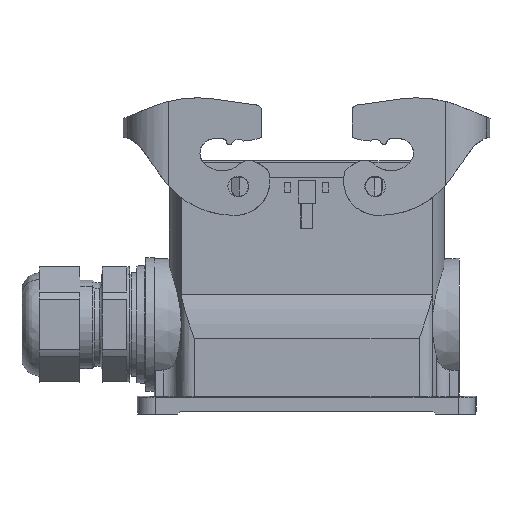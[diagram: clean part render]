
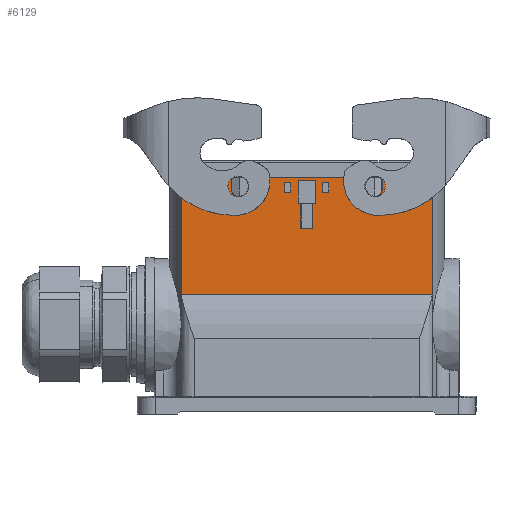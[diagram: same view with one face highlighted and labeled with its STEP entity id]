
A CAD part, front view. The second image highlights one B-rep face of the part: STEP entity #6129.
In plain terms, the highlighted planar face has unit normal (0, -1, 0).
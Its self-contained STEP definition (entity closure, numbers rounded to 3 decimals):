
#5215=FACE_BOUND('',#7944,.T.);
#5216=FACE_BOUND('',#7945,.T.);
#5217=FACE_BOUND('',#7946,.T.);
#5218=FACE_BOUND('',#7947,.T.);
#5512=PLANE('',#23033);
#6129=ADVANCED_FACE('',(#5215,#5216,#5217,#5218),#5512,.T.);
#7944=EDGE_LOOP('',(#10513,#10514,#10515,#10516,#10517,#10518,#10519,#10520,
#10521,#10522,#10523,#10524,#10525,#10526));
#7945=EDGE_LOOP('',(#10527,#10528,#10529,#10530));
#7946=EDGE_LOOP('',(#10531,#10532,#10533,#10534,#10535,#10536,#10537,#10538));
#7947=EDGE_LOOP('',(#10539,#10540,#10541,#10542));
#10513=ORIENTED_EDGE('',*,*,#15801,.F.);
#10514=ORIENTED_EDGE('',*,*,#15768,.F.);
#10515=ORIENTED_EDGE('',*,*,#15802,.T.);
#10516=ORIENTED_EDGE('',*,*,#15803,.T.);
#10517=ORIENTED_EDGE('',*,*,#15804,.F.);
#10518=ORIENTED_EDGE('',*,*,#15805,.T.);
#10519=ORIENTED_EDGE('',*,*,#15806,.T.);
#10520=ORIENTED_EDGE('',*,*,#15758,.F.);
#10521=ORIENTED_EDGE('',*,*,#15807,.F.);
#10522=ORIENTED_EDGE('',*,*,#15808,.F.);
#10523=ORIENTED_EDGE('',*,*,#15757,.F.);
#10524=ORIENTED_EDGE('',*,*,#15809,.T.);
#10525=ORIENTED_EDGE('',*,*,#15770,.F.);
#10526=ORIENTED_EDGE('',*,*,#15810,.F.);
#10527=ORIENTED_EDGE('',*,*,#15811,.F.);
#10528=ORIENTED_EDGE('',*,*,#15812,.F.);
#10529=ORIENTED_EDGE('',*,*,#15813,.F.);
#10530=ORIENTED_EDGE('',*,*,#15814,.F.);
#10531=ORIENTED_EDGE('',*,*,#15815,.T.);
#10532=ORIENTED_EDGE('',*,*,#15816,.T.);
#10533=ORIENTED_EDGE('',*,*,#15817,.T.);
#10534=ORIENTED_EDGE('',*,*,#15818,.T.);
#10535=ORIENTED_EDGE('',*,*,#15819,.T.);
#10536=ORIENTED_EDGE('',*,*,#15820,.T.);
#10537=ORIENTED_EDGE('',*,*,#15821,.T.);
#10538=ORIENTED_EDGE('',*,*,#15822,.T.);
#10539=ORIENTED_EDGE('',*,*,#15823,.F.);
#10540=ORIENTED_EDGE('',*,*,#15824,.F.);
#10541=ORIENTED_EDGE('',*,*,#15825,.F.);
#10542=ORIENTED_EDGE('',*,*,#15826,.F.);
#14008=VERTEX_POINT('',#30774);
#14011=VERTEX_POINT('',#30786);
#14012=VERTEX_POINT('',#30790);
#14013=VERTEX_POINT('',#30791);
#14020=VERTEX_POINT('',#30824);
#14021=VERTEX_POINT('',#30826);
#14022=VERTEX_POINT('',#30833);
#14023=VERTEX_POINT('',#30834);
#14043=VERTEX_POINT('',#30929);
#14044=VERTEX_POINT('',#30931);
#14045=VERTEX_POINT('',#30933);
#14046=VERTEX_POINT('',#30935);
#14047=VERTEX_POINT('',#30937);
#14048=VERTEX_POINT('',#30940);
#14049=VERTEX_POINT('',#30945);
#14050=VERTEX_POINT('',#30946);
#14051=VERTEX_POINT('',#30948);
#14052=VERTEX_POINT('',#30950);
#14053=VERTEX_POINT('',#30953);
#14054=VERTEX_POINT('',#30954);
#14055=VERTEX_POINT('',#30956);
#14056=VERTEX_POINT('',#30958);
#14057=VERTEX_POINT('',#30960);
#14058=VERTEX_POINT('',#30962);
#14059=VERTEX_POINT('',#30964);
#14060=VERTEX_POINT('',#30966);
#14061=VERTEX_POINT('',#30969);
#14062=VERTEX_POINT('',#30970);
#14063=VERTEX_POINT('',#30972);
#14064=VERTEX_POINT('',#30974);
#15757=EDGE_CURVE('',#14011,#14008,#17464,.T.);
#15758=EDGE_CURVE('',#14012,#14013,#17465,.T.);
#15768=EDGE_CURVE('',#14020,#14021,#17466,.T.);
#15770=EDGE_CURVE('',#14022,#14023,#17467,.T.);
#15801=EDGE_CURVE('',#14021,#14043,#18961,.T.);
#15802=EDGE_CURVE('',#14020,#14044,#18962,.T.);
#15803=EDGE_CURVE('',#14044,#14045,#18963,.T.);
#15804=EDGE_CURVE('',#14046,#14045,#18964,.T.);
#15805=EDGE_CURVE('',#14046,#14047,#18965,.T.);
#15806=EDGE_CURVE('',#14047,#14013,#18966,.T.);
#15807=EDGE_CURVE('',#14048,#14012,#18967,.T.);
#15808=EDGE_CURVE('',#14008,#14048,#17471,.T.);
#15809=EDGE_CURVE('',#14011,#14023,#18968,.T.);
#15810=EDGE_CURVE('',#14043,#14022,#17472,.T.);
#15811=EDGE_CURVE('',#14049,#14050,#18969,.T.);
#15812=EDGE_CURVE('',#14051,#14049,#18970,.T.);
#15813=EDGE_CURVE('',#14052,#14051,#18971,.T.);
#15814=EDGE_CURVE('',#14050,#14052,#18972,.T.);
#15815=EDGE_CURVE('',#14053,#14054,#18973,.T.);
#15816=EDGE_CURVE('',#14054,#14055,#18974,.T.);
#15817=EDGE_CURVE('',#14055,#14056,#18975,.T.);
#15818=EDGE_CURVE('',#14056,#14057,#18976,.T.);
#15819=EDGE_CURVE('',#14057,#14058,#18977,.T.);
#15820=EDGE_CURVE('',#14058,#14059,#18978,.T.);
#15821=EDGE_CURVE('',#14059,#14060,#18979,.T.);
#15822=EDGE_CURVE('',#14060,#14053,#18980,.T.);
#15823=EDGE_CURVE('',#14061,#14062,#18981,.T.);
#15824=EDGE_CURVE('',#14063,#14061,#18982,.T.);
#15825=EDGE_CURVE('',#14064,#14063,#18983,.T.);
#15826=EDGE_CURVE('',#14062,#14064,#18984,.T.);
#17464=CIRCLE('',#23001,3.5);
#17465=CIRCLE('',#23003,3.5);
#17466=CIRCLE('',#23009,3.5);
#17467=CIRCLE('',#23011,3.5);
#17471=CIRCLE('',#23031,2.4);
#17472=CIRCLE('',#23032,2.4);
#18961=LINE('',#30928,#20457);
#18962=LINE('',#30930,#20458);
#18963=LINE('',#30932,#20459);
#18964=LINE('',#30934,#20460);
#18965=LINE('',#30936,#20461);
#18966=LINE('',#30938,#20462);
#18967=LINE('',#30939,#20463);
#18968=LINE('',#30942,#20464);
#18969=LINE('',#30944,#20465);
#18970=LINE('',#30947,#20466);
#18971=LINE('',#30949,#20467);
#18972=LINE('',#30951,#20468);
#18973=LINE('',#30952,#20469);
#18974=LINE('',#30955,#20470);
#18975=LINE('',#30957,#20471);
#18976=LINE('',#30959,#20472);
#18977=LINE('',#30961,#20473);
#18978=LINE('',#30963,#20474);
#18979=LINE('',#30965,#20475);
#18980=LINE('',#30967,#20476);
#18981=LINE('',#30968,#20477);
#18982=LINE('',#30971,#20478);
#18983=LINE('',#30973,#20479);
#18984=LINE('',#30975,#20480);
#20457=VECTOR('',#25797,1.);
#20458=VECTOR('',#25798,1.);
#20459=VECTOR('',#25799,1.);
#20460=VECTOR('',#25800,1.);
#20461=VECTOR('',#25801,1.);
#20462=VECTOR('',#25802,1.);
#20463=VECTOR('',#25803,1.);
#20464=VECTOR('',#25806,1.);
#20465=VECTOR('',#25809,1.);
#20466=VECTOR('',#25810,1.);
#20467=VECTOR('',#25811,1.);
#20468=VECTOR('',#25812,1.);
#20469=VECTOR('',#25813,1.);
#20470=VECTOR('',#25814,1.);
#20471=VECTOR('',#25815,1.);
#20472=VECTOR('',#25816,1.);
#20473=VECTOR('',#25817,1.);
#20474=VECTOR('',#25818,1.);
#20475=VECTOR('',#25819,1.);
#20476=VECTOR('',#25820,1.);
#20477=VECTOR('',#25821,1.);
#20478=VECTOR('',#25822,1.);
#20479=VECTOR('',#25823,1.);
#20480=VECTOR('',#25824,1.);
#23001=AXIS2_PLACEMENT_3D('',#30787,#25722,#25723);
#23003=AXIS2_PLACEMENT_3D('',#30789,#25726,#25727);
#23009=AXIS2_PLACEMENT_3D('',#30825,#25741,#25742);
#23011=AXIS2_PLACEMENT_3D('',#30832,#25745,#25746);
#23031=AXIS2_PLACEMENT_3D('',#30941,#25804,#25805);
#23032=AXIS2_PLACEMENT_3D('',#30943,#25807,#25808);
#23033=AXIS2_PLACEMENT_3D('',#30976,#25825,#25826);
#25722=DIRECTION('',(0.,-1.,0.));
#25723=DIRECTION('',(1.,0.,0.));
#25726=DIRECTION('',(0.,-1.,0.));
#25727=DIRECTION('',(1.,0.,0.));
#25741=DIRECTION('',(0.,-1.,0.));
#25742=DIRECTION('',(1.,0.,0.));
#25745=DIRECTION('',(0.,-1.,0.));
#25746=DIRECTION('',(1.,0.,0.));
#25797=DIRECTION('',(0.,0.,-1.));
#25798=DIRECTION('',(-1.,0.,0.));
#25799=DIRECTION('',(0.,0.,-1.));
#25800=DIRECTION('',(-1.,0.,0.));
#25801=DIRECTION('',(0.,0.,1.));
#25802=DIRECTION('',(-1.,0.,0.));
#25803=DIRECTION('',(0.,0.,1.));
#25804=DIRECTION('',(0.,-1.,0.));
#25805=DIRECTION('',(1.,0.,0.));
#25806=DIRECTION('',(-1.,0.,0.));
#25807=DIRECTION('',(0.,-1.,0.));
#25808=DIRECTION('',(1.,0.,0.));
#25809=DIRECTION('',(0.,0.,1.));
#25810=DIRECTION('',(1.,0.,0.));
#25811=DIRECTION('',(0.,0.,-1.));
#25812=DIRECTION('',(-1.,0.,0.));
#25813=DIRECTION('',(0.017,0.,-1.));
#25814=DIRECTION('',(-1.,0.,0.));
#25815=DIRECTION('',(0.,0.,-1.));
#25816=DIRECTION('',(-1.,0.,0.));
#25817=DIRECTION('',(0.,0.,1.));
#25818=DIRECTION('',(-1.,0.,0.));
#25819=DIRECTION('',(0.017,0.,1.));
#25820=DIRECTION('',(1.,0.,0.));
#25821=DIRECTION('',(1.,0.,0.));
#25822=DIRECTION('',(0.,0.,-1.));
#25823=DIRECTION('',(-1.,0.,0.));
#25824=DIRECTION('',(0.,0.,1.));
#25825=DIRECTION('',(0.,-1.,0.));
#25826=DIRECTION('',(-1.,0.,0.));
#30774=CARTESIAN_POINT('',(23.75,-22.5,-0.85));
#30786=CARTESIAN_POINT('',(22.033,-22.5,5.7));
#30787=CARTESIAN_POINT('',(23.75,-22.5,2.65));
#30789=CARTESIAN_POINT('',(23.75,-22.5,2.65));
#30790=CARTESIAN_POINT('',(26.15,-22.5,5.198));
#30791=CARTESIAN_POINT('',(25.467,-22.5,5.7));
#30824=CARTESIAN_POINT('',(-25.467,-22.5,5.7));
#30825=CARTESIAN_POINT('',(-23.75,-22.5,2.65));
#30826=CARTESIAN_POINT('',(-26.15,-22.5,5.198));
#30832=CARTESIAN_POINT('',(-23.75,-22.5,2.65));
#30833=CARTESIAN_POINT('',(-23.75,-22.5,-0.85));
#30834=CARTESIAN_POINT('',(-22.033,-22.5,5.7));
#30928=CARTESIAN_POINT('',(-26.15,-22.5,2.65));
#30929=CARTESIAN_POINT('',(-26.15,-22.5,1.55));
#30930=CARTESIAN_POINT('',(0.,-22.5,5.7));
#30931=CARTESIAN_POINT('',(-43.6,-22.5,5.7));
#30932=CARTESIAN_POINT('',(-43.6,-22.5,5.7));
#30933=CARTESIAN_POINT('',(-43.6,-22.5,-35.001));
#30934=CARTESIAN_POINT('',(43.6,-22.5,-35.001));
#30935=CARTESIAN_POINT('',(43.6,-22.5,-35.001));
#30936=CARTESIAN_POINT('',(43.6,-22.5,5.7));
#30937=CARTESIAN_POINT('',(43.6,-22.5,5.7));
#30938=CARTESIAN_POINT('',(0.,-22.5,5.7));
#30939=CARTESIAN_POINT('',(26.15,-22.5,5.7));
#30940=CARTESIAN_POINT('',(26.15,-22.5,1.55));
#30941=CARTESIAN_POINT('',(23.75,-22.5,1.55));
#30942=CARTESIAN_POINT('',(0.,-22.5,5.7));
#30943=CARTESIAN_POINT('',(-23.75,-22.5,1.55));
#30944=CARTESIAN_POINT('',(-5.5,-22.5,5.7));
#30945=CARTESIAN_POINT('',(-5.5,-22.5,0.6));
#30946=CARTESIAN_POINT('',(-5.5,-22.5,4.));
#30947=CARTESIAN_POINT('',(-7.7,-22.5,0.6));
#30948=CARTESIAN_POINT('',(-7.7,-22.5,0.6));
#30949=CARTESIAN_POINT('',(-7.7,-22.5,4.));
#30950=CARTESIAN_POINT('',(-7.7,-22.5,4.));
#30951=CARTESIAN_POINT('',(-5.5,-22.5,4.));
#30952=CARTESIAN_POINT('',(2.047,-22.5,-5.964));
#30953=CARTESIAN_POINT('',(1.86,-22.5,4.75));
#30954=CARTESIAN_POINT('',(2.001,-22.5,-3.285));
#30955=CARTESIAN_POINT('',(0.,-22.5,-3.285));
#30956=CARTESIAN_POINT('',(2.,-22.5,-3.285));
#30957=CARTESIAN_POINT('',(2.,-22.5,-6.));
#30958=CARTESIAN_POINT('',(2.,-22.5,-11.95));
#30959=CARTESIAN_POINT('',(0.,-22.5,-11.95));
#30960=CARTESIAN_POINT('',(-2.,-22.5,-11.95));
#30961=CARTESIAN_POINT('',(-2.,-22.5,-6.));
#30962=CARTESIAN_POINT('',(-2.,-22.5,-3.285));
#30963=CARTESIAN_POINT('',(0.,-22.5,-3.285));
#30964=CARTESIAN_POINT('',(-2.001,-22.5,-3.285));
#30965=CARTESIAN_POINT('',(-2.047,-22.5,-5.964));
#30966=CARTESIAN_POINT('',(-1.86,-22.5,4.75));
#30967=CARTESIAN_POINT('',(-2.,-22.5,4.75));
#30968=CARTESIAN_POINT('',(5.5,-22.5,0.6));
#30969=CARTESIAN_POINT('',(5.5,-22.5,0.6));
#30970=CARTESIAN_POINT('',(7.7,-22.5,0.6));
#30971=CARTESIAN_POINT('',(5.5,-22.5,4.));
#30972=CARTESIAN_POINT('',(5.5,-22.5,4.));
#30973=CARTESIAN_POINT('',(7.7,-22.5,4.));
#30974=CARTESIAN_POINT('',(7.7,-22.5,4.));
#30975=CARTESIAN_POINT('',(7.7,-22.5,0.6));
#30976=CARTESIAN_POINT('',(0.,-22.5,5.7));
